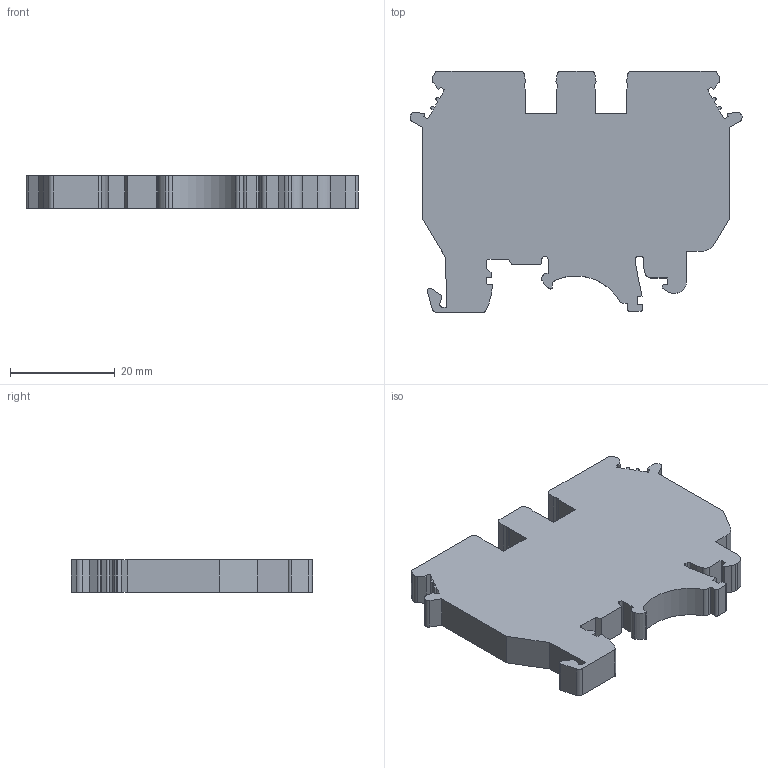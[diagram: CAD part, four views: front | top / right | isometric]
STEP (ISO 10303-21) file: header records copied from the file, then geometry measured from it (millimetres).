
FILE_DESCRIPTION(/* description */ (''),/* implementation_level */ '2;1');
FILE_NAME(/* name */ 'UT1-4-2-2.stp',/* time_stamp */ '2023-02-14T13:37:53+08:00',/* author */ (''),/* organization */ (''),/* preprocessor_version */ 'ST-DEVELOPER v16.7',/* originating_system */ 'SIEMENS PLM Software NX 12.0',/* authorisation */ '');
FILE_SCHEMA (('AUTOMOTIVE_DESIGN { 1 0 10303 214 3 1 1 1 }'));
Length unit declared in the file: inch
Products named in the file (1): Admi01CC23451nix
Bounding box: 63.5 x 46.1 x 6.2 mm (x, y, z)
Volume: 13424.7 mm3; surface area: 6222.4 mm2
Topology: 1 solids, 1 shells, 144 faces, 426 edges, 284 vertices
Faces by surface type: plane 105, cylinder 39
Entity records: 4822 total; most frequent: CARTESIAN_POINT 855, ORIENTED_EDGE 852, DIRECTION 794, EDGE_CURVE 426, LINE 348, VECTOR 348, VERTEX_POINT 284, AXIS2_PLACEMENT_3D 223
